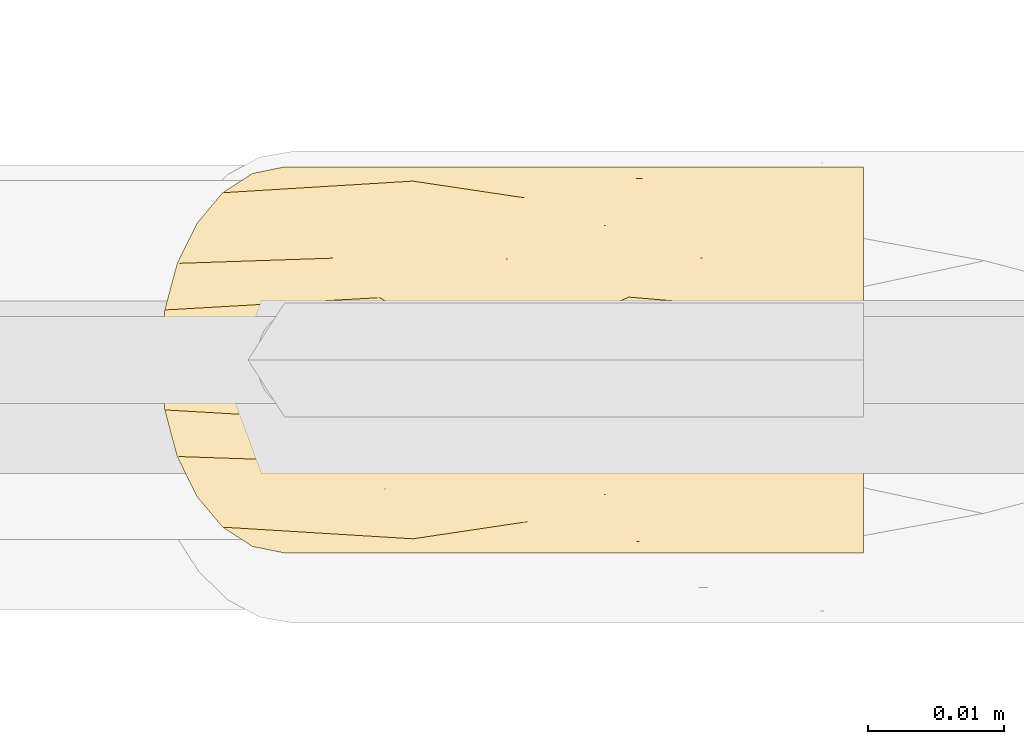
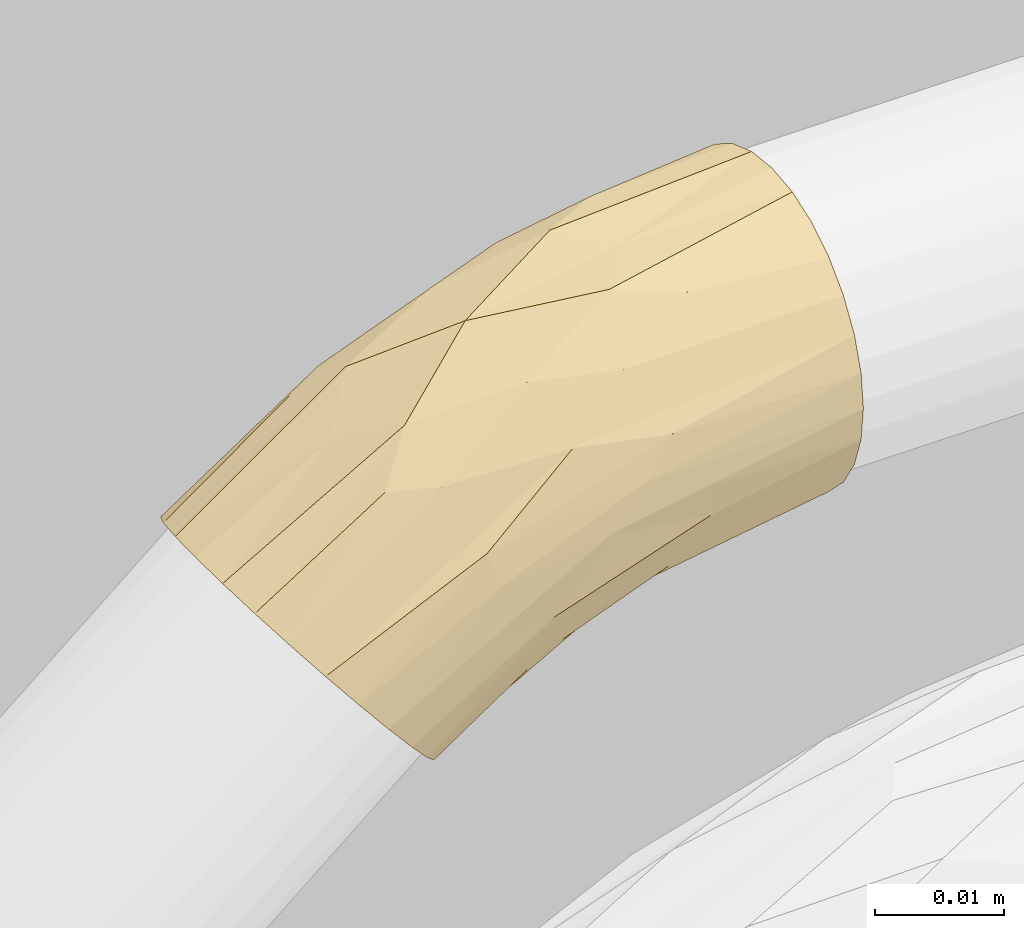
# One storey, part 11 of 32: 1 covering.
"""IFC2X3 building model written with IfcOpenShell, lengths in metres."""

from ifc_helpers import new_model, entity, si_unit, converted_unit, derived_unit, direction, frame, origin, place, context, subcontext, project, spatial, faceted_brep, material, type_object, element, save


model = new_model("IFC2X3")

# Units and contexts
model_context = context("Model", 3, precision=1e-05, world=origin(), true_north=direction((6.123031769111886e-17, 1.0)))
body_context = subcontext(model_context, "Body", "Model", "MODEL_VIEW")
ifc_project = project(units=[si_unit("LENGTHUNIT", "METRE"), si_unit("AREAUNIT", "SQUARE_METRE"), si_unit("VOLUMEUNIT", "CUBIC_METRE"), converted_unit("PLANEANGLEUNIT", "DEGREE", entity("IfcPlaneAngleMeasure", 0.017453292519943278), si_unit("PLANEANGLEUNIT", "RADIAN"), dimensions=[0, 0, 0, 0, 0, 0, 0]), si_unit("MASSUNIT", "GRAM", prefix="KILO"), derived_unit("MASSDENSITYUNIT", [(si_unit("MASSUNIT", "GRAM", prefix="KILO"), 1), (si_unit("LENGTHUNIT", "METRE"), -3)]), derived_unit("IONCONCENTRATIONUNIT", [(si_unit("MASSUNIT", "GRAM", prefix="KILO"), 1), (si_unit("LENGTHUNIT", "METRE"), -3)]), derived_unit("MOMENTOFINERTIAUNIT", [(si_unit("LENGTHUNIT", "METRE"), 4)]), si_unit("TIMEUNIT", "SECOND"), si_unit("FREQUENCYUNIT", "HERTZ"), si_unit("THERMODYNAMICTEMPERATUREUNIT", "DEGREE_CELSIUS"), derived_unit("THERMALTRANSMITTANCEUNIT", [(si_unit("MASSUNIT", "GRAM", prefix="KILO"), 1), (si_unit("THERMODYNAMICTEMPERATUREUNIT", "KELVIN"), -1), (si_unit("TIMEUNIT", "SECOND"), -3)]), derived_unit("THERMALCONDUCTANCEUNIT", [(si_unit("MASSUNIT", "GRAM", prefix="KILO"), 1), (si_unit("THERMODYNAMICTEMPERATUREUNIT", "KELVIN"), -1), (si_unit("TIMEUNIT", "SECOND"), -3), (si_unit("LENGTHUNIT", "METRE"), 1)]), derived_unit("VOLUMETRICFLOWRATEUNIT", [(si_unit("LENGTHUNIT", "METRE", prefix="DECI"), 3), (si_unit("TIMEUNIT", "SECOND"), -1)]), derived_unit("MASSFLOWRATEUNIT", [(si_unit("MASSUNIT", "GRAM", prefix="KILO"), 1), (si_unit("TIMEUNIT", "SECOND"), -1)]), derived_unit("ROTATIONALFREQUENCYUNIT", [(si_unit("TIMEUNIT", "SECOND"), -1)]), si_unit("ELECTRICCURRENTUNIT", "AMPERE"), si_unit("ELECTRICVOLTAGEUNIT", "VOLT"), si_unit("POWERUNIT", "WATT"), si_unit("FORCEUNIT", "NEWTON", prefix="KILO"), si_unit("ILLUMINANCEUNIT", "LUX"), si_unit("LUMINOUSFLUXUNIT", "LUMEN"), si_unit("LUMINOUSINTENSITYUNIT", "CANDELA"), si_unit("ENERGYUNIT", "JOULE"), derived_unit("USERDEFINED", [(si_unit("MASSUNIT", "GRAM", prefix="KILO"), -1), (si_unit("LENGTHUNIT", "METRE"), -2), (si_unit("TIMEUNIT", "SECOND"), 3), (si_unit("LUMINOUSFLUXUNIT", "LUMEN"), 1)]), derived_unit("USERDEFINED", [(si_unit("MASSUNIT", "GRAM", prefix="KILO"), 1), (si_unit("TIMEUNIT", "SECOND"), -3), (si_unit("LENGTHUNIT", "METRE"), 3), (si_unit("ELECTRICCURRENTUNIT", "AMPERE"), -2)]), derived_unit("SOUNDPOWERUNIT", [(si_unit("MASSUNIT", "GRAM", prefix="KILO"), 1), (si_unit("TIMEUNIT", "SECOND"), -3), (si_unit("LENGTHUNIT", "METRE"), 2)]), derived_unit("SOUNDPRESSUREUNIT", [(si_unit("MASSUNIT", "GRAM", prefix="KILO"), 1), (si_unit("LENGTHUNIT", "METRE"), -1), (si_unit("TIMEUNIT", "SECOND"), -2)]), derived_unit("LINEARVELOCITYUNIT", [(si_unit("LENGTHUNIT", "METRE"), 1), (si_unit("TIMEUNIT", "SECOND"), -1)]), si_unit("PRESSUREUNIT", "PASCAL"), derived_unit("USERDEFINED", [(si_unit("MASSUNIT", "GRAM", prefix="KILO"), 1), (si_unit("LENGTHUNIT", "METRE"), -2), (si_unit("TIMEUNIT", "SECOND"), -2)]), derived_unit("LINEARFORCEUNIT", [(si_unit("MASSUNIT", "GRAM", prefix="KILO"), 1), (si_unit("TIMEUNIT", "SECOND"), -2)]), derived_unit("PLANARFORCEUNIT", [(si_unit("MASSUNIT", "GRAM", prefix="KILO"), 1), (si_unit("LENGTHUNIT", "METRE"), -1), (si_unit("TIMEUNIT", "SECOND"), -2)]), derived_unit("SPECIFICHEATCAPACITYUNIT", [(si_unit("THERMODYNAMICTEMPERATUREUNIT", "KELVIN"), -1), (si_unit("LENGTHUNIT", "METRE"), 2), (si_unit("TIMEUNIT", "SECOND"), -2)]), derived_unit("HEATFLUXDENSITYUNIT", [(si_unit("MASSUNIT", "GRAM", prefix="KILO"), 1), (si_unit("TIMEUNIT", "SECOND"), -3)]), derived_unit("HEATINGVALUEUNIT", [(si_unit("LENGTHUNIT", "METRE"), 2), (si_unit("TIMEUNIT", "SECOND"), -2)]), derived_unit("VAPORPERMEABILITYUNIT", [(si_unit("LENGTHUNIT", "METRE"), -1), (si_unit("TIMEUNIT", "SECOND"), 1)]), derived_unit("DYNAMICVISCOSITYUNIT", [(si_unit("MASSUNIT", "GRAM", prefix="KILO"), 1), (si_unit("TIMEUNIT", "SECOND"), -1), (si_unit("LENGTHUNIT", "METRE"), -1)]), derived_unit("THERMALEXPANSIONCOEFFICIENTUNIT", [(si_unit("THERMODYNAMICTEMPERATUREUNIT", "KELVIN"), -1)]), derived_unit("MODULUSOFELASTICITYUNIT", [(si_unit("MASSUNIT", "GRAM", prefix="KILO"), 1), (si_unit("LENGTHUNIT", "METRE"), -1), (si_unit("TIMEUNIT", "SECOND"), -2)]), derived_unit("ISOTHERMALMOISTURECAPACITYUNIT", [(si_unit("MASSUNIT", "GRAM", prefix="KILO"), -1), (si_unit("LENGTHUNIT", "METRE"), 3)]), derived_unit("MOISTUREDIFFUSIVITYUNIT", [(si_unit("TIMEUNIT", "SECOND"), -1), (si_unit("LENGTHUNIT", "METRE"), 2)]), derived_unit("MASSPERLENGTHUNIT", [(si_unit("MASSUNIT", "GRAM", prefix="KILO"), 1), (si_unit("LENGTHUNIT", "METRE"), -1)]), derived_unit("THERMALRESISTANCEUNIT", [(si_unit("MASSUNIT", "GRAM", prefix="KILO"), -1), (si_unit("TIMEUNIT", "SECOND"), 3), (si_unit("THERMODYNAMICTEMPERATUREUNIT", "KELVIN"), 1)]), derived_unit("ACCELERATIONUNIT", [(si_unit("LENGTHUNIT", "METRE"), 1), (si_unit("TIMEUNIT", "SECOND"), -2)]), derived_unit("ANGULARVELOCITYUNIT", [(si_unit("TIMEUNIT", "SECOND"), -1), (si_unit("PLANEANGLEUNIT", "RADIAN"), 1)]), derived_unit("LINEARSTIFFNESSUNIT", [(si_unit("MASSUNIT", "GRAM", prefix="KILO"), 1), (si_unit("TIMEUNIT", "SECOND"), -2)]), derived_unit("WARPINGCONSTANTUNIT", [(si_unit("LENGTHUNIT", "METRE"), 6)]), derived_unit("LINEARMOMENTUNIT", [(si_unit("MASSUNIT", "GRAM", prefix="KILO"), 1), (si_unit("LENGTHUNIT", "METRE"), 1), (si_unit("TIMEUNIT", "SECOND"), -2)]), derived_unit("TORQUEUNIT", [(si_unit("MASSUNIT", "GRAM", prefix="KILO"), 1), (si_unit("LENGTHUNIT", "METRE"), 2), (si_unit("TIMEUNIT", "SECOND"), -2)])], contexts=[model_context])

# Site, building, storey
site_placement = place(None, origin())
site = spatial("IfcSite", under=ifc_project, at=site_placement, Name="Default", CompositionType="ELEMENT")
building_placement = place(site_placement, origin())
building = spatial("IfcBuilding", under=site, at=building_placement, CompositionType="ELEMENT")
storey_placement = place(building_placement, origin())
storey = spatial("IfcBuildingStorey", under=building, at=storey_placement, Name="Niveau 0", CompositionType="ELEMENT", Elevation=-1.949160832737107e-14)

# Covering
ifc_material = material(Name="Matériau du rendu 255-255-255")
covering_type = type_object("IfcCoveringType", Name="Isolation des canalisations:Par défaut", PredefinedType="INSULATION")
covering_placement = place(storey_placement, frame((-15.207754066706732, 1.3612578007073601, 0.06537929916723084)))
element("IfcCovering", 1, at=covering_placement, inside=storey, type_object=covering_type, material=ifc_material, Name="Isolation des canalisations:Par défaut", ObjectType="Isolation des canalisations:Par défaut", PredefinedType="INSULATION", context=body_context, shape_type="Brep", body=[
    faceted_brep([(0.05328452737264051, 0.02195866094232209, 0.015171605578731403), (0.05328452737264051, 0.02465099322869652, 0.01686400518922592), (0.05328452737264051, 0.02689892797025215, 0.019112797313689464), (0.05328452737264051, 0.0285900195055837, 0.021805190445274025), (0.05328452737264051, 0.029639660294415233, 0.024806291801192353), (0.05328452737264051, 0.02999527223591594, 0.027964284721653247), (0.05328452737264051, 0.029638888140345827, 0.031125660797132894), (0.05328452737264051, 0.028587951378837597, 0.03412767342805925), (0.05328452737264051, 0.02689555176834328, 0.03682000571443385), (0.05328452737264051, 0.02464675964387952, 0.03906794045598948), (0.05328452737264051, 0.02195436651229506, 0.040759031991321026), (0.05328452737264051, 0.018953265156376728, 0.04180867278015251), (0.05328452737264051, 0.01579527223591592, 0.042164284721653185), (0.05328452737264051, 0.012633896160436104, 0.04180790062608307), (0.05328452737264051, 0.009631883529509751, 0.04075696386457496), (0.05328452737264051, 0.0069395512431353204, 0.039064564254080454), (0.05328452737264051, 0.004691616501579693, 0.03681577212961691), (0.05328452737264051, 0.0030005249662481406, 0.03412337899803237), (0.05328452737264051, 0.0019508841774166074, 0.03112227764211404), (0.05328452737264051, 0.0015952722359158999, 0.027964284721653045), (0.05328452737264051, 0.0019516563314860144, 0.024802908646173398), (0.05328452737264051, 0.0030025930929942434, 0.02180089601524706), (0.05328452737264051, 0.00469499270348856, 0.019108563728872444), (0.05328452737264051, 0.006943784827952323, 0.016860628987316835), (0.05328452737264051, 0.009636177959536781, 0.015169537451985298), (0.05328452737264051, 0.012637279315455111, 0.014119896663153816), (0.05328452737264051, 0.01579527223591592, 0.013764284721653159), (0.05328452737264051, 0.01895664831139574, 0.014120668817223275), (0.015286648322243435, 0.0034977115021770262, 0.007034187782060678), (0.013085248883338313, 0.002079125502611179, 0.009657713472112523), (0.010722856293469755, 0.0015952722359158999, 0.012473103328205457), (0.008360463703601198, 0.002079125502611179, 0.015288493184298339), (0.006159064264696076, 0.0034977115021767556, 0.01791201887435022), (0.004268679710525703, 0.005754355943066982, 0.02016489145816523), (0.0028181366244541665, 0.00869527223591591, 0.02189358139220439), (0.0019062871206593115, 0.012120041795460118, 0.022980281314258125), (0.0015952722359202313, 0.01579527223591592, 0.02335093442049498), (0.0019062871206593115, 0.019470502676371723, 0.022980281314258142), (0.0028181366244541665, 0.02289527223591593, 0.02189358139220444), (0.004268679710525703, 0.025836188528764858, 0.020164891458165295), (0.006159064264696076, 0.028092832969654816, 0.017912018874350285), (0.008360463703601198, 0.029511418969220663, 0.015288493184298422), (0.010722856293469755, 0.02999527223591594, 0.012473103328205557), (0.013085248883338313, 0.029511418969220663, 0.009657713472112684), (0.015286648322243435, 0.028092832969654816, 0.007034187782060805), (0.017177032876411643, 0.025836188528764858, 0.00478131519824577), (0.018627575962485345, 0.02289527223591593, 0.0030526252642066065), (0.0195394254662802, 0.019470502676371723, 0.0019659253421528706), (0.01985044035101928, 0.01579527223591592, 0.0015952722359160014), (0.0195394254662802, 0.012120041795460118, 0.0019659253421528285), (0.018627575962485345, 0.00869527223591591, 0.003052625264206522), (0.017177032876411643, 0.005754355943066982, 0.00478131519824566), (0.03663033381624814, 0.029133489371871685, 0.030857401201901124), (0.014278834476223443, 0.023282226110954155, 0.029620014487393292), (0.027050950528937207, 0.023214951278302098, 0.03554756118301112), (0.018128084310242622, 0.025297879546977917, 0.0299926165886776), (0.017695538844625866, 0.02037732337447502, 0.03301215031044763), (0.036030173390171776, 0.020416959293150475, 0.039499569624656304), (0.034228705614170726, 0.02569215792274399, 0.03573247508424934), (0.025781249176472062, 0.01579527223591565, 0.037314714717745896), (0.030637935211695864, 0.02999527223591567, 0.023971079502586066), (0.02101618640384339, 0.029784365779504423, 0.022346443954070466), (0.03384440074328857, 0.029780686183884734, 0.02761458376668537), (0.028571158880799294, 0.027687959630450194, 0.03147312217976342), (0.02015122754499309, 0.028946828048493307, 0.025187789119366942), (0.013688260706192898, 0.01579527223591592, 0.030332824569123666), (0.04132502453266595, 0.02328847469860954, 0.03910727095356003), (0.0393711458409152, 0.01579527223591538, 0.03971098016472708), (0.02068039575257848, 0.02999527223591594, 0.01822209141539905), (0.039371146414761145, 0.02999527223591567, 0.025510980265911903), (0.04014507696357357, 0.0292870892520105, 0.022122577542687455), (0.02580953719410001, 0.029360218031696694, 0.01734685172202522), (0.02868961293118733, 0.021099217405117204, 0.008745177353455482), (0.028571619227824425, 0.01816850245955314, 0.00774536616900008), (0.033535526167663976, 0.028003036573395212, 0.017305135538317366), (0.038835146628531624, 0.02603225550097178, 0.016240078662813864), (0.027026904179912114, 0.026509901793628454, 0.012224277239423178), (0.023960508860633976, 0.02801232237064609, 0.01291974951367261), (0.04084749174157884, 0.020576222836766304, 0.013108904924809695), (0.03549462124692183, 0.01579527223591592, 0.010627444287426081), (0.035159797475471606, 0.02352166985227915, 0.012936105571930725), (0.04426620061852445, 0.027903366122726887, 0.019850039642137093), (0.027030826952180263, 0.005083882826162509, 0.012222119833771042), (0.03516163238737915, 0.008073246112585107, 0.012933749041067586), (0.038835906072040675, 0.0055618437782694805, 0.016236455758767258), (0.04014362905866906, 0.0023047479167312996, 0.022118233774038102), (0.03937114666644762, 0.0015952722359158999, 0.02551098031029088), (0.028561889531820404, 0.013425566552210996, 0.00773945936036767), (0.040849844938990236, 0.011018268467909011, 0.013108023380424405), (0.028695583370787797, 0.010495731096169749, 0.008746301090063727), (0.04426698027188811, 0.0036898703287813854, 0.019845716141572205), (0.02068039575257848, 0.0015952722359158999, 0.018222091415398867), (0.025808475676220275, 0.002231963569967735, 0.017340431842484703), (0.023961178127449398, 0.003580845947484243, 0.012915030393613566), (0.0335362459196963, 0.0035901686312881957, 0.01730064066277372), (0.030637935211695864, 0.0015952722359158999, 0.023971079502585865), (0.03382013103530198, 0.0018097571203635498, 0.027606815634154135), (0.020159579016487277, 0.0026420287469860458, 0.025187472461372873), (0.02100441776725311, 0.0018056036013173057, 0.022336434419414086), (0.014277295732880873, 0.00830432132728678, 0.02961626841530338), (0.018131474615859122, 0.006289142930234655, 0.029990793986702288), (0.02857374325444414, 0.0038998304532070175, 0.03146955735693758), (0.03422884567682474, 0.0058948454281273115, 0.035728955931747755), (0.017691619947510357, 0.011208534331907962, 0.033008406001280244), (0.04132545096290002, 0.00829777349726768, 0.03910463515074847), (0.02705077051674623, 0.008371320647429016, 0.03554471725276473), (0.036027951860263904, 0.011169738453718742, 0.03949771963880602), (0.0366333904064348, 0.0024556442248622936, 0.03085416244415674)], [[[0, 1, 2, 3, 4, 5, 6, 7, 8, 9, 10, 11, 12, 13, 14, 15, 16, 17, 18, 19, 20, 21, 22, 23, 24, 25, 26, 27]], [[28, 29, 30, 31, 32, 33, 34, 35, 36, 37, 38, 39, 40, 41, 42, 43, 44, 45, 46, 47, 48, 49, 50, 51]], [[7, 6, 52]], [[53, 54, 55]], [[56, 57, 54]], [[55, 54, 58]], [[59, 57, 56]], [[40, 39, 55]], [[60, 61, 62]], [[63, 52, 64]], [[63, 58, 8]], [[42, 41, 61]], [[40, 63, 64]], [[64, 61, 41]], [[37, 65, 56]], [[62, 61, 64]], [[10, 9, 66]], [[10, 66, 57]], [[9, 8, 58]], [[57, 67, 11]], [[56, 38, 37]], [[61, 60, 68, 42]], [[62, 5, 69, 60]], [[8, 7, 63]], [[7, 52, 63]], [[40, 64, 41]], [[67, 12, 11]], [[66, 58, 54]], [[67, 57, 59]], [[62, 64, 52]], [[10, 57, 11]], [[57, 66, 54]], [[56, 54, 53]], [[58, 66, 9]], [[63, 40, 55]], [[63, 55, 58]], [[53, 39, 38]], [[52, 6, 62]], [[5, 62, 6]], [[39, 53, 55]], [[56, 53, 38]], [[65, 37, 36]], [[65, 59, 56]], [[60, 70, 71]], [[72, 73, 47]], [[74, 75, 76]], [[74, 76, 77]], [[73, 78, 79]], [[44, 43, 71]], [[80, 78, 72]], [[69, 70, 60]], [[48, 47, 73]], [[46, 80, 72]], [[76, 46, 45]], [[43, 68, 71]], [[46, 72, 47]], [[3, 2, 81]], [[3, 81, 70]], [[71, 74, 77]], [[70, 69, 4]], [[2, 1, 75]], [[69, 5, 4]], [[80, 75, 1]], [[26, 79, 27]], [[71, 70, 74]], [[0, 80, 1]], [[75, 74, 81]], [[0, 27, 78]], [[78, 80, 0]], [[27, 79, 78]], [[48, 73, 79]], [[3, 70, 4]], [[70, 81, 74]], [[78, 73, 72]], [[75, 81, 2]], [[80, 46, 76]], [[80, 76, 75]], [[77, 45, 44]], [[45, 77, 76]], [[71, 77, 44]], [[68, 43, 42]], [[68, 60, 71]], [[82, 83, 84]], [[85, 20, 86]], [[87, 88, 89]], [[90, 84, 22]], [[89, 88, 83]], [[50, 83, 82]], [[91, 29, 92]], [[50, 89, 83]], [[28, 93, 92]], [[94, 85, 92]], [[95, 92, 85]], [[28, 92, 29]], [[48, 79, 87]], [[84, 90, 94]], [[79, 26, 25]], [[88, 87, 79]], [[88, 24, 83]], [[21, 20, 85]], [[93, 51, 82]], [[24, 23, 83]], [[23, 22, 84]], [[89, 50, 49]], [[29, 91, 30]], [[79, 25, 88]], [[85, 86, 95]], [[90, 85, 94]], [[20, 19, 86]], [[21, 90, 22]], [[48, 87, 49]], [[24, 88, 25]], [[85, 90, 21]], [[87, 89, 49]], [[82, 84, 94]], [[23, 84, 83]], [[93, 82, 94]], [[82, 51, 50]], [[92, 93, 94]], [[51, 93, 28]], [[92, 95, 91]], [[96, 97, 98]], [[98, 97, 31]], [[98, 30, 91, 95]], [[99, 33, 100]], [[32, 97, 101]], [[101, 102, 100]], [[99, 103, 34]], [[102, 104, 105]], [[32, 101, 100]], [[98, 95, 96]], [[106, 104, 14]], [[35, 103, 65]], [[107, 18, 17]], [[30, 98, 31]], [[101, 107, 17]], [[34, 103, 35]], [[16, 101, 17]], [[107, 97, 96]], [[59, 103, 106]], [[15, 102, 16]], [[106, 103, 105]], [[104, 15, 14]], [[59, 106, 67]], [[106, 13, 67]], [[97, 32, 31]], [[104, 106, 105]], [[35, 65, 36]], [[13, 106, 14]], [[97, 107, 101]], [[96, 19, 18]], [[13, 12, 67]], [[15, 104, 102]], [[100, 102, 105]], [[16, 102, 101]], [[99, 100, 105]], [[100, 33, 32]], [[96, 95, 86, 19]], [[18, 107, 96]], [[103, 99, 105]], [[33, 99, 34]], [[103, 59, 65]]]),
])

save(model, "model.ifc")
